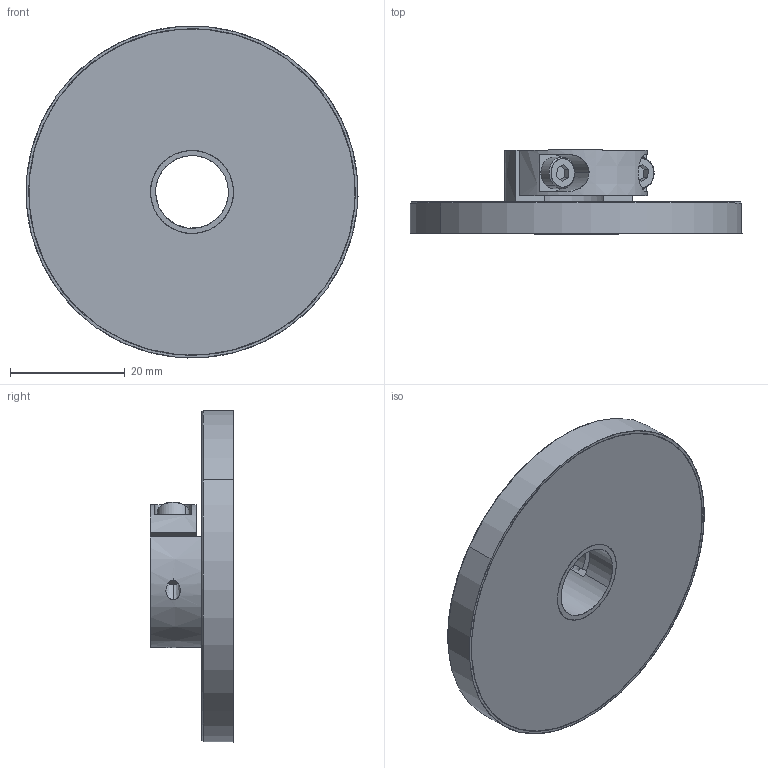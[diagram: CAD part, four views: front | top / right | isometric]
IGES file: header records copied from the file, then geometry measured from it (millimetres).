
Start section: SolidWorks IGES file using analytic representation for surfaces
Global section: file name: C:\Zettlex Data\Mechanical Drawings\1615\58mm Shaft Clamp Rotor 12.70mm Rev 1-0.IGS; native system: SolidWorks 2015; preprocessor: SolidWorks 2015; author: Nigel; date: 150907.174256; units: millimetre
Bounding box: 57.98 x 14.6 x 57.98 mm (x, y, z)
Surface area: 8552.6 mm2 (no closed solid volume)
Topology: 0 solids, 0 shells, 806 faces, 9585 edges, 9585 vertices
Faces by surface type: bspline 758, revolution 48
